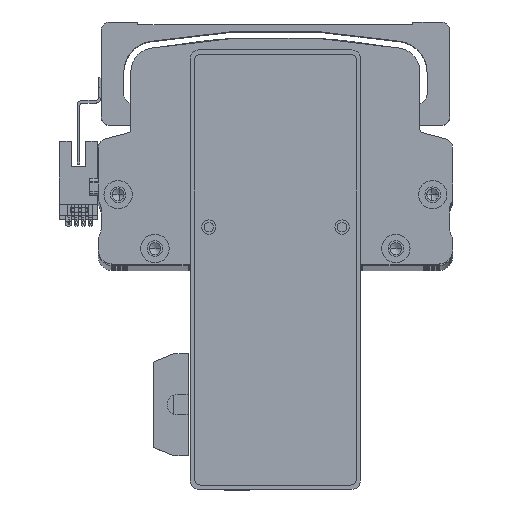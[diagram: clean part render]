
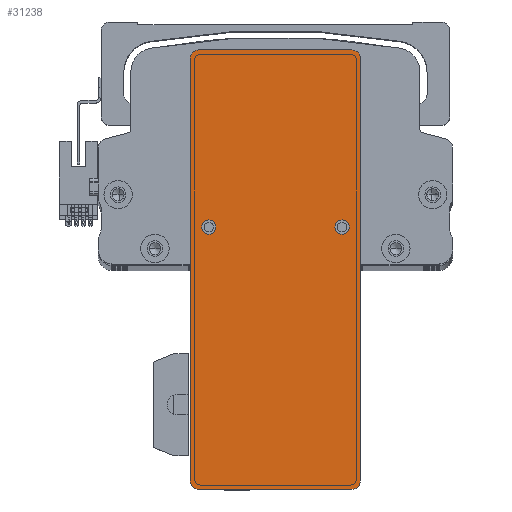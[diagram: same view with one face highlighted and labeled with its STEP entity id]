
A CAD part, top view. The second image highlights one B-rep face of the part: STEP entity #31238.
In plain terms, the highlighted planar face has unit normal (0, 0, 1) as drawn and (0, 0, -1) by its records, which use the part's own axes.
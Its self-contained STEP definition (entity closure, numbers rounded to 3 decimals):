
#385 = DIRECTION ( 'NONE',  ( 0., -1., 0. ) ) ;
#2950 = FACE_BOUND ( 'NONE', #28869, .T. ) ;
#3416 = AXIS2_PLACEMENT_3D ( 'NONE', #14698, #59601, #21130 ) ;
#4290 = EDGE_CURVE ( 'NONE', #75504, #36610, #19541, .T. ) ;
#6110 = ORIENTED_EDGE ( 'NONE', *, *, #46936, .F. ) ;
#6279 = CARTESIAN_POINT ( 'NONE',  ( -77.5, -30., 0. ) ) ;
#9433 = AXIS2_PLACEMENT_3D ( 'NONE', #76369, #37993, #82852 ) ;
#10626 = DIRECTION ( 'NONE',  ( 0., 0., -1. ) ) ;
#10676 = ORIENTED_EDGE ( 'NONE', *, *, #20973, .F. ) ;
#11345 = CARTESIAN_POINT ( 'NONE',  ( 74.5, 27., 0. ) ) ;
#13293 = DIRECTION ( 'NONE',  ( 0., 0., -1. ) ) ;
#13555 = AXIS2_PLACEMENT_3D ( 'NONE', #17393, #62320, #23840 ) ;
#13688 = CIRCLE ( 'NONE', #29263, 3. ) ;
#14470 = EDGE_CURVE ( 'NONE', #25845, #34453, #15483, .T. ) ;
#14698 = CARTESIAN_POINT ( 'NONE',  ( 74.5, -27., 0. ) ) ;
#14742 = ORIENTED_EDGE ( 'NONE', *, *, #4290, .T. ) ;
#14923 = EDGE_CURVE ( 'NONE', #39027, #19145, #73611, .T. ) ;
#15483 = CIRCLE ( 'NONE', #3416, 3. ) ;
#15868 = FACE_BOUND ( 'NONE', #79771, .T. ) ;
#17393 = CARTESIAN_POINT ( 'NONE',  ( -74.5, 27., 0. ) ) ;
#17394 = CARTESIAN_POINT ( 'NONE',  ( 17.5, 23.5, 0. ) ) ;
#17748 = DIRECTION ( 'NONE',  ( 1., 0., 0. ) ) ;
#18497 = VECTOR ( 'NONE', #30923, 1000. ) ;
#19145 = VERTEX_POINT ( 'NONE', #52909 ) ;
#19541 = CIRCLE ( 'NONE', #35291, 3. ) ;
#20819 = CARTESIAN_POINT ( 'NONE',  ( 74.5, -30., 0. ) ) ;
#20973 = EDGE_CURVE ( 'NONE', #29034, #23033, #81019, .T. ) ;
#21130 = DIRECTION ( 'NONE',  ( 1., 0., 0. ) ) ;
#21702 = CARTESIAN_POINT ( 'NONE',  ( -74.5, 30., 0. ) ) ;
#22379 = VECTOR ( 'NONE', #385, 1000. ) ;
#23033 = VERTEX_POINT ( 'NONE', #17394 ) ;
#23056 = DIRECTION ( 'NONE',  ( 0., 0., -1. ) ) ;
#23096 = ORIENTED_EDGE ( 'NONE', *, *, #40043, .F. ) ;
#23840 = DIRECTION ( 'NONE',  ( 1., 0., 0. ) ) ;
#25845 = VERTEX_POINT ( 'NONE', #47909 ) ;
#25992 = CIRCLE ( 'NONE', #46139, 2.5 ) ;
#28869 = EDGE_LOOP ( 'NONE', ( #23096, #71925 ) ) ;
#29034 = VERTEX_POINT ( 'NONE', #32674 ) ;
#29263 = AXIS2_PLACEMENT_3D ( 'NONE', #49023, #10626, #55479 ) ;
#29399 = CARTESIAN_POINT ( 'NONE',  ( 77.5, 27., 0. ) ) ;
#29514 = CIRCLE ( 'NONE', #53910, 2.5 ) ;
#30923 = DIRECTION ( 'NONE',  ( 0., 1., 0. ) ) ;
#31238 = ADVANCED_FACE ( 'NONE', ( #15868, #2950, #67133 ), #44120, .F. ) ;
#31357 = CARTESIAN_POINT ( 'NONE',  ( 77.5, 30., 0. ) ) ;
#31782 = EDGE_CURVE ( 'NONE', #75504, #39418, #49030, .T. ) ;
#31937 = VECTOR ( 'NONE', #37902, 1000. ) ;
#32674 = CARTESIAN_POINT ( 'NONE',  ( 12.5, 23.5, 0. ) ) ;
#34287 = ORIENTED_EDGE ( 'NONE', *, *, #38985, .T. ) ;
#34453 = VERTEX_POINT ( 'NONE', #20819 ) ;
#34516 = VECTOR ( 'NONE', #77329, 1000. ) ;
#34639 = CARTESIAN_POINT ( 'NONE',  ( 15., -23.5, 0. ) ) ;
#35291 = AXIS2_PLACEMENT_3D ( 'NONE', #11345, #56212, #17748 ) ;
#35576 = LINE ( 'NONE', #56508, #18497 ) ;
#36204 = CARTESIAN_POINT ( 'NONE',  ( 15., -23.5, 0. ) ) ;
#36521 = CARTESIAN_POINT ( 'NONE',  ( 74.5, 30., 0. ) ) ;
#36610 = VERTEX_POINT ( 'NONE', #29399 ) ;
#37902 = DIRECTION ( 'NONE',  ( -1., 0., 0. ) ) ;
#37993 = DIRECTION ( 'NONE',  ( 0., 0., 1. ) ) ;
#38985 = EDGE_CURVE ( 'NONE', #50604, #19145, #13688, .T. ) ;
#39027 = VERTEX_POINT ( 'NONE', #75097 ) ;
#39325 = EDGE_LOOP ( 'NONE', ( #6110, #67728, #72495, #34287, #78145, #58160, #72549, #14742 ) ) ;
#39418 = VERTEX_POINT ( 'NONE', #21702 ) ;
#39556 = CIRCLE ( 'NONE', #47132, 2.5 ) ;
#40043 = EDGE_CURVE ( 'NONE', #83180, #53343, #39556, .T. ) ;
#41090 = DIRECTION ( 'NONE',  ( -1., 0., 0. ) ) ;
#41214 = EDGE_CURVE ( 'NONE', #23033, #29034, #25992, .T. ) ;
#41636 = CARTESIAN_POINT ( 'NONE',  ( 17.5, -23.5, 0. ) ) ;
#42680 = DIRECTION ( 'NONE',  ( -1., 0., 0. ) ) ;
#42968 = AXIS2_PLACEMENT_3D ( 'NONE', #61527, #23056, #68013 ) ;
#44120 = PLANE ( 'NONE',  #9433 ) ;
#45371 = CARTESIAN_POINT ( 'NONE',  ( 77.5, -30., 0. ) ) ;
#46139 = AXIS2_PLACEMENT_3D ( 'NONE', #51736, #13293, #58187 ) ;
#46936 = EDGE_CURVE ( 'NONE', #25845, #36610, #35576, .T. ) ;
#47132 = AXIS2_PLACEMENT_3D ( 'NONE', #36204, #81081, #42680 ) ;
#47909 = CARTESIAN_POINT ( 'NONE',  ( 77.5, -27., 0. ) ) ;
#49023 = CARTESIAN_POINT ( 'NONE',  ( -74.5, -27., 0. ) ) ;
#49030 = LINE ( 'NONE', #31357, #31937 ) ;
#49585 = LINE ( 'NONE', #45371, #34516 ) ;
#49772 = CARTESIAN_POINT ( 'NONE',  ( -74.5, -30., 0. ) ) ;
#50363 = EDGE_CURVE ( 'NONE', #53343, #83180, #29514, .T. ) ;
#50604 = VERTEX_POINT ( 'NONE', #49772 ) ;
#51736 = CARTESIAN_POINT ( 'NONE',  ( 15., 23.5, 0. ) ) ;
#52909 = CARTESIAN_POINT ( 'NONE',  ( -77.5, -27., 0. ) ) ;
#53343 = VERTEX_POINT ( 'NONE', #41636 ) ;
#53910 = AXIS2_PLACEMENT_3D ( 'NONE', #34639, #79506, #41090 ) ;
#55479 = DIRECTION ( 'NONE',  ( 1., 0., 0. ) ) ;
#56212 = DIRECTION ( 'NONE',  ( 0., 0., -1. ) ) ;
#56508 = CARTESIAN_POINT ( 'NONE',  ( 77.5, -30., 0. ) ) ;
#58160 = ORIENTED_EDGE ( 'NONE', *, *, #74027, .T. ) ;
#58187 = DIRECTION ( 'NONE',  ( -1., 0., 0. ) ) ;
#59601 = DIRECTION ( 'NONE',  ( 0., 0., -1. ) ) ;
#61527 = CARTESIAN_POINT ( 'NONE',  ( 15., 23.5, 0. ) ) ;
#62320 = DIRECTION ( 'NONE',  ( 0., 0., -1. ) ) ;
#62605 = ORIENTED_EDGE ( 'NONE', *, *, #41214, .F. ) ;
#63449 = CARTESIAN_POINT ( 'NONE',  ( 12.5, -23.5, 0. ) ) ;
#66168 = EDGE_CURVE ( 'NONE', #50604, #34453, #49585, .T. ) ;
#67133 = FACE_OUTER_BOUND ( 'NONE', #39325, .T. ) ;
#67728 = ORIENTED_EDGE ( 'NONE', *, *, #14470, .T. ) ;
#68013 = DIRECTION ( 'NONE',  ( -1., 0., 0. ) ) ;
#71925 = ORIENTED_EDGE ( 'NONE', *, *, #50363, .F. ) ;
#72495 = ORIENTED_EDGE ( 'NONE', *, *, #66168, .F. ) ;
#72549 = ORIENTED_EDGE ( 'NONE', *, *, #31782, .F. ) ;
#73370 = CIRCLE ( 'NONE', #13555, 3. ) ;
#73611 = LINE ( 'NONE', #6279, #22379 ) ;
#74027 = EDGE_CURVE ( 'NONE', #39027, #39418, #73370, .T. ) ;
#75097 = CARTESIAN_POINT ( 'NONE',  ( -77.5, 27., 0. ) ) ;
#75504 = VERTEX_POINT ( 'NONE', #36521 ) ;
#76369 = CARTESIAN_POINT ( 'NONE',  ( 0., 0., 0. ) ) ;
#77329 = DIRECTION ( 'NONE',  ( 1., 0., 0. ) ) ;
#78145 = ORIENTED_EDGE ( 'NONE', *, *, #14923, .F. ) ;
#79506 = DIRECTION ( 'NONE',  ( 0., 0., -1. ) ) ;
#79771 = EDGE_LOOP ( 'NONE', ( #10676, #62605 ) ) ;
#81019 = CIRCLE ( 'NONE', #42968, 2.5 ) ;
#81081 = DIRECTION ( 'NONE',  ( 0., 0., -1. ) ) ;
#82852 = DIRECTION ( 'NONE',  ( 1., 0., 0. ) ) ;
#83180 = VERTEX_POINT ( 'NONE', #63449 ) ;
